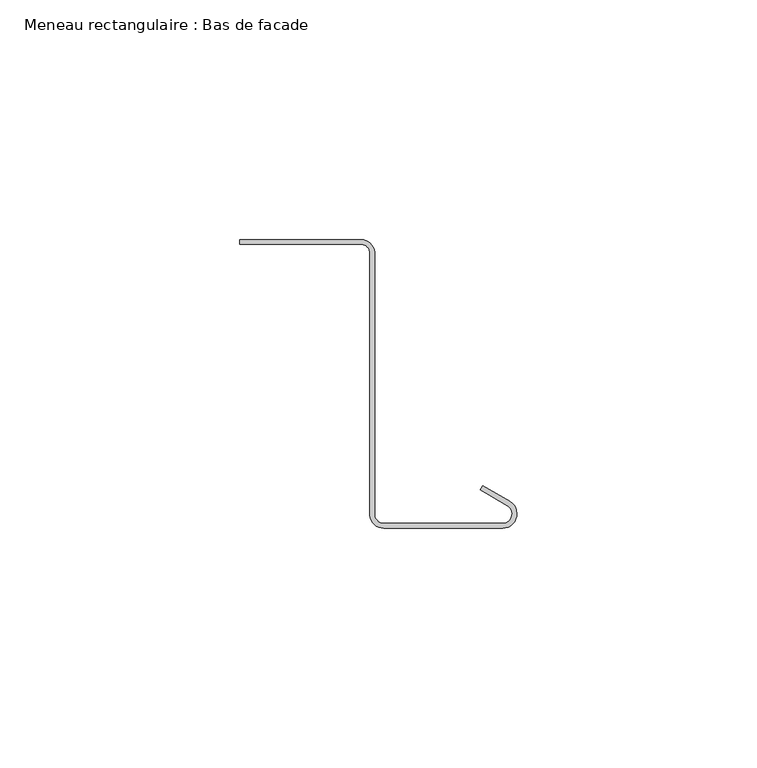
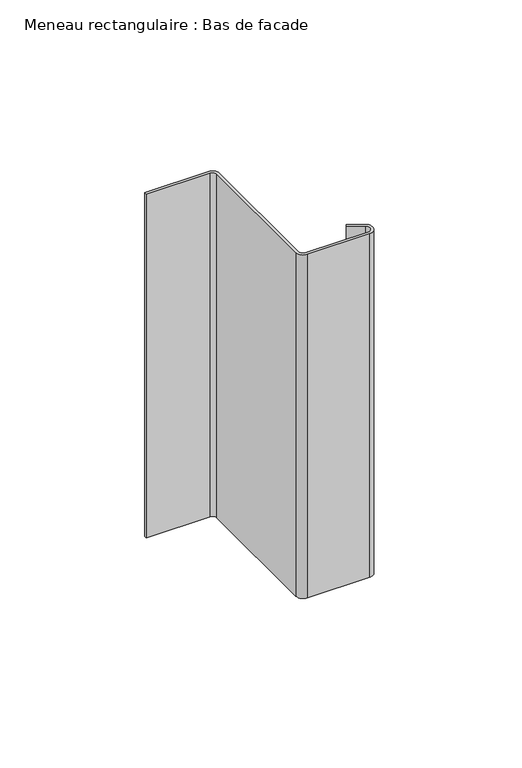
"""IFC4 building model written with IfcOpenShell, lengths in millimetres: member geometry, Meneau rectangulaire : Bas de facade."""

from ifc_helpers import new_model, si_unit, point, frame, frame_2d, origin, place, context, project, spatial, polyline, circle_curve, trimmed, segment, composite_curve, outline, extrude, source, transform, mapped, element, save


def meneau_rectangulaire_bas_de_facade_ae91a431(model_context):
    return source(origin(), model_context, "Body", "SweptSolid", [
        extrude(outline(composite_curve([segment(trimmed(circle_curve(frame_2d((-32.4584179, 0.2088923)), 2.75), [point((-32.4584179, 2.9588923))], [point((-29.7143802, 0.3898824))], False, "CARTESIAN"), True, "CONTINUOUS"), segment(polyline([(-29.7143802, 0.3898824), (-29.7143802, -54.5495817)]), True, "CONTINUOUS"), segment(trimmed(circle_curve(frame_2d((-27.735368, -54.2605998)), 2.0), [point((-29.7143802, -54.5495817))], [point((-27.735368, -56.2605998))], True, "CARTESIAN"), True, "CONTINUOUS"), segment(polyline([(-27.735368, -56.2605998), (-3.0, -56.2605998)]), True, "CONTINUOUS"), segment(trimmed(circle_curve(frame_2d((-3.0, -54.2605998)), 2.0), [point((-3.0, -56.2605998))], [point((-2.0, -52.528549))], True, "CARTESIAN"), True, "CONTINUOUS"), segment(polyline([(-2.0, -52.528549), (-7.6638061, -49.258549), (-7.1638061, -48.3925235), (-1.5, -51.6625235)]), True, "CONTINUOUS"), segment(trimmed(circle_curve(frame_2d((-3.0, -54.2605998)), 3.0), [point((-1.5, -51.6625235))], [point((-3.0, -57.2605998))], False, "CARTESIAN"), True, "CONTINUOUS"), segment(polyline([(-3.0, -57.2605998), (-27.735368, -57.2605998)]), True, "CONTINUOUS"), segment(trimmed(circle_curve(frame_2d((-27.735368, -54.2605998)), 3.0), [point((-27.735368, -57.2605998))], [point((-30.7239521, -54.522067))], False, "CARTESIAN"), True, "CONTINUOUS"), segment(polyline([(-30.7239521, -54.522067), (-30.7239521, 0.4415475)]), True, "CONTINUOUS"), segment(trimmed(circle_curve(frame_2d((-32.4584179, 0.2088923)), 1.75), [point((-30.7239521, 0.4415475))], [point((-32.4584179, 1.9588923))], True, "CARTESIAN"), True, "CONTINUOUS"), segment(polyline([(-32.4584179, 1.9588923), (-57.8548383, 1.9588923), (-57.8548383, 2.9588923), (-32.4584179, 2.9588923)]), True, "CONTINUOUS")], self_intersect=False)), frame((0.0, 0.0, -145.0), z_axis=(0.0, 0.0, 1.0), x_axis=(1.0, 0.0, 0.0)), (0.0, 0.0, 1.0), 145.0),
    ])


if __name__ == "__main__":
    model = new_model("IFC4")
    model_context = context("Model", 3, world=origin())
    ifc_project = project(units=[si_unit("LENGTHUNIT", "METRE", prefix="MILLI")], contexts=[model_context])
    site = spatial("IfcSite", under=ifc_project)
    building = spatial("IfcBuilding", under=site)
    placement = place(None, origin())
    meneau_rectangulaire_bas_de_facade_shape = meneau_rectangulaire_bas_de_facade_ae91a431(model_context)
    element("IfcMember", 1, ObjectType="Meneau rectangulaire : Bas de facade", at=placement, inside=building, context=model_context, shape_type="MappedRepresentation", body=[
        mapped(meneau_rectangulaire_bas_de_facade_shape, transform((0.0, 0.0, 0.0), x_axis=(1.0, 0.0, 0.0), y_axis=(0.0, 1.0, 0.0), z_axis=(0.0, 0.0, 1.0))),
    ])
    save(model, "model.ifc")
